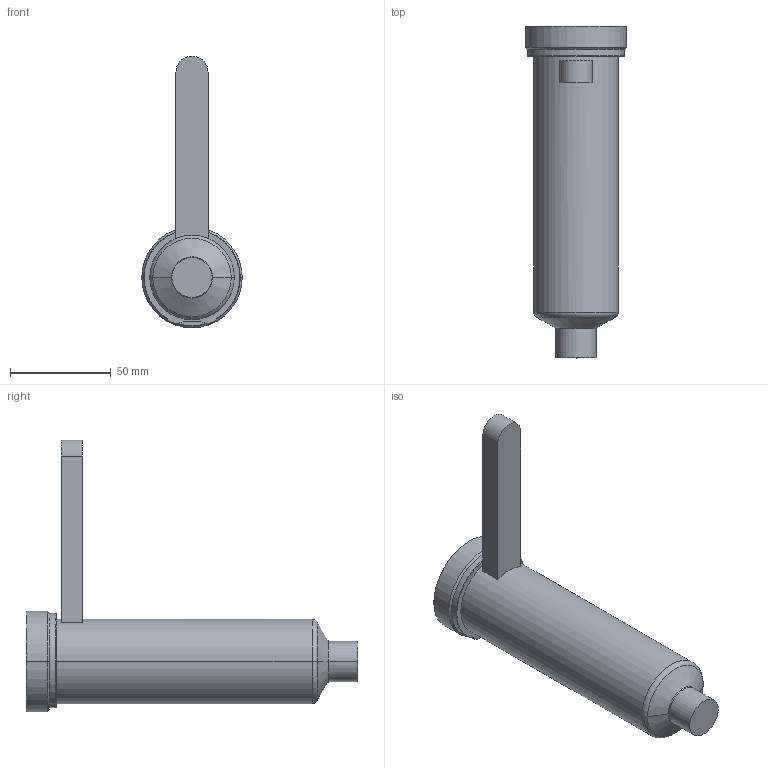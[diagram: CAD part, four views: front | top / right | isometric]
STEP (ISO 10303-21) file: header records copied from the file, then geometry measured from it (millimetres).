
FILE_DESCRIPTION((''),'2;1');
FILE_NAME('EO16_VG-FBE_STD_140_COT','2024-02-19T14:10:31',('sundharh'),(''),'CREO PARAMETRIC BY PTC INC, 2023154','CREO PARAMETRIC BY PTC INC, 2023154','');
FILE_SCHEMA(('CONFIG_CONTROL_DESIGN'));
Length unit declared in the file: millimetre
Products named in the file (1): EO16_VG-FBE_STD_140_COT
Bounding box: 50 x 165 x 135 mm (x, y, z)
Volume: 231749.1 mm3; surface area: 28852.1 mm2
Topology: 1 solids, 1 shells, 31 faces, 67 edges, 40 vertices
Faces by surface type: cylinder 11, plane 9, torus 7, cone 4
Entity records: 967 total; most frequent: CARTESIAN_POINT 234, DIRECTION 159, ORIENTED_EDGE 134, AXIS2_PLACEMENT_3D 67, EDGE_CURVE 67, VERTEX_POINT 40, CIRCLE 36, EDGE_LOOP 33
